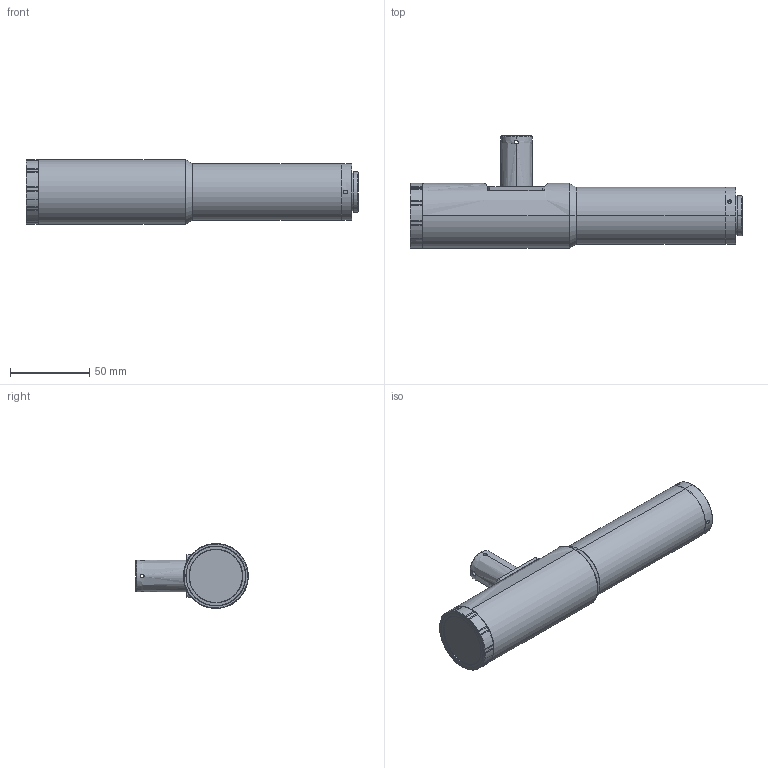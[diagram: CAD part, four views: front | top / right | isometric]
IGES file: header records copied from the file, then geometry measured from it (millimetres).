
Start section: SolidWorks IGES file using analytic representation for surfaces
Global section: file name: E:\图纸\镜头\DTCA\DTCA121\DTCA121-6.6C（3倍）  与2.74镜片全同）\A3.0\发客户3D\DTCA121-6.6C.IGS; native system: SolidWorks 2017; preprocessor: SolidWorks 2017; author: gc; date: 231221.110358; units: millimetre
Bounding box: 210.11 x 71.2 x 41 mm (x, y, z)
Surface area: 34416.9 mm2 (no closed solid volume)
Topology: 0 solids, 0 shells, 281 faces, 4508 edges, 4508 vertices
Faces by surface type: revolution 207, bspline 74
